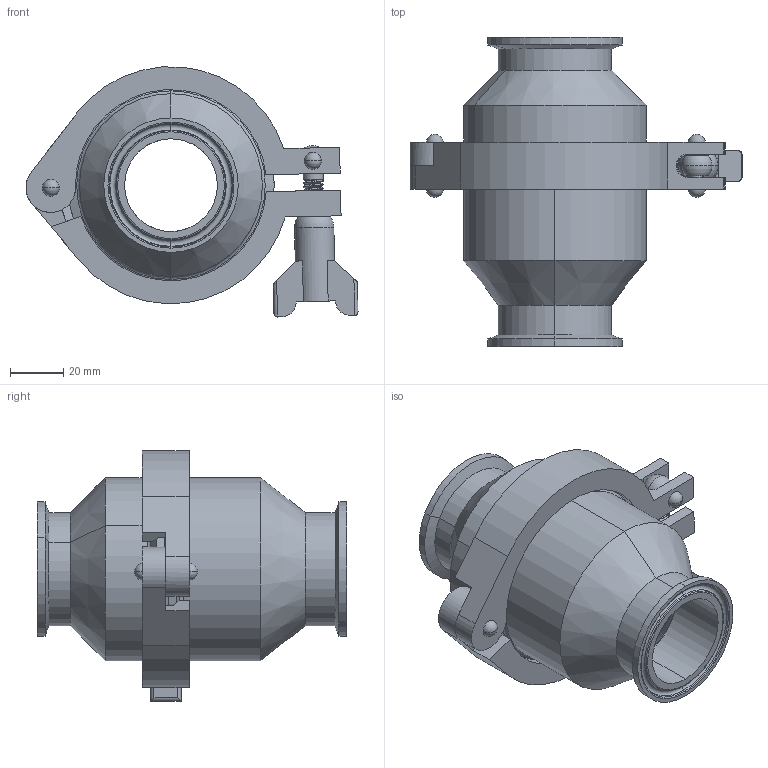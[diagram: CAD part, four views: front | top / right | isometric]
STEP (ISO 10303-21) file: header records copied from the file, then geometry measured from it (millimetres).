
FILE_DESCRIPTION (( 'STEP AP203' ), '1' );
FILE_NAME ('45C-6 1.5.STEP', '2019-11-14T20:38:23', ( 'vneprd' ), ( 'Microsoft' ), 'SwSTEP 2.0', 'SolidWorks 2018', '' );
FILE_SCHEMA (( 'CONFIG_CONTROL_DESIGN' ));
Length unit declared in the file: inch
Products named in the file (1): 45C-6 1.5
Bounding box: 124.46 x 115.87 x 93.73 mm (x, y, z)
Volume: 139659.7 mm3; surface area: 81339.3 mm2
Topology: 9 solids, 9 shells, 283 faces, 679 edges, 423 vertices
Faces by surface type: cylinder 126, plane 59, cone 41, torus 40, sphere 14, bspline 3
Entity records: 12589 total; most frequent: CARTESIAN_POINT 6084, DIRECTION 1391, ORIENTED_EDGE 1350, EDGE_CURVE 675, AXIS2_PLACEMENT_3D 568, VERTEX_POINT 421, EDGE_LOOP 312, CIRCLE 287
